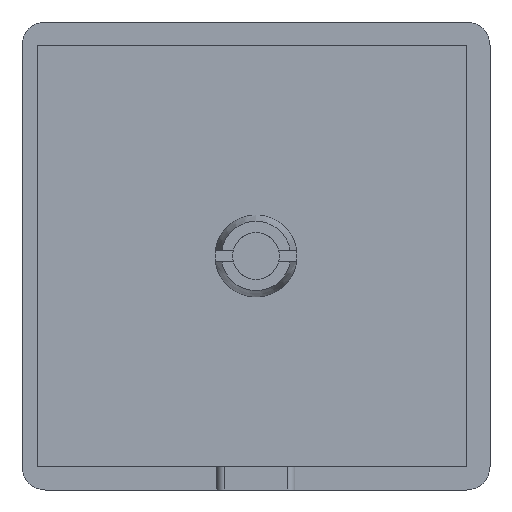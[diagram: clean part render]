
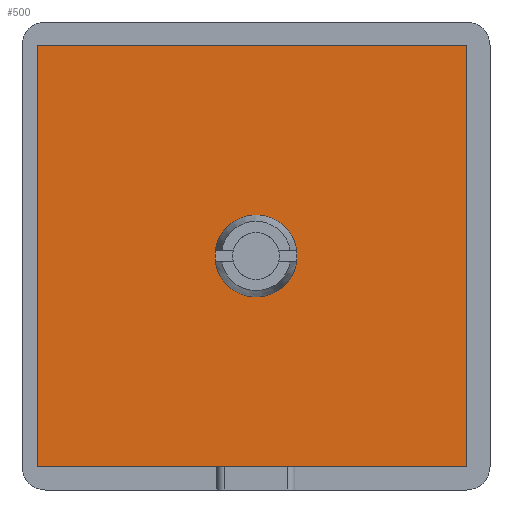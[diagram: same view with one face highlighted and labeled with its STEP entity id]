
A CAD part, front view. The second image highlights one B-rep face of the part: STEP entity #500.
In plain terms, the highlighted planar face has unit normal (0, -1, 0).
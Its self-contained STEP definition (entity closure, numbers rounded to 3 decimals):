
#17 = ORIENTED_EDGE ( 'NONE', *, *, #1248, .F. ) ;
#42 = CARTESIAN_POINT ( 'NONE',  ( 30., 1., -35.25 ) ) ;
#57 = EDGE_CURVE ( 'NONE', #792, #784, #294, .T. ) ;
#86 = CARTESIAN_POINT ( 'NONE',  ( 57., 1., -3. ) ) ;
#105 = FACE_OUTER_BOUND ( 'NONE', #650, .T. ) ;
#123 = EDGE_CURVE ( 'NONE', #1210, #792, #912, .T. ) ;
#174 = CARTESIAN_POINT ( 'NONE',  ( 57., 1., -57. ) ) ;
#209 = DIRECTION ( 'NONE',  ( 0., -1., 0. ) ) ;
#211 = ORIENTED_EDGE ( 'NONE', *, *, #123, .T. ) ;
#214 = VERTEX_POINT ( 'NONE', #1143 ) ;
#226 = CIRCLE ( 'NONE', #1229, 5.25 ) ;
#251 = ORIENTED_EDGE ( 'NONE', *, *, #57, .T. ) ;
#284 = CARTESIAN_POINT ( 'NONE',  ( 2., 1., -57. ) ) ;
#294 = LINE ( 'NONE', #86, #408 ) ;
#303 = DIRECTION ( 'NONE',  ( 0., 0., 1. ) ) ;
#321 = FACE_BOUND ( 'NONE', #779, .T. ) ;
#362 = VERTEX_POINT ( 'NONE', #42 ) ;
#408 = VECTOR ( 'NONE', #303, 1000. ) ;
#409 = VERTEX_POINT ( 'NONE', #726 ) ;
#421 = DIRECTION ( 'NONE',  ( 0., -1., 0. ) ) ;
#500 = ADVANCED_FACE ( 'NONE', ( #105, #321 ), #641, .T. ) ;
#539 = CIRCLE ( 'NONE', #1159, 5.25 ) ;
#545 = ORIENTED_EDGE ( 'NONE', *, *, #604, .F. ) ;
#575 = DIRECTION ( 'NONE',  ( 0., -1., 0. ) ) ;
#595 = VECTOR ( 'NONE', #853, 1000. ) ;
#604 = EDGE_CURVE ( 'NONE', #362, #409, #226, .T. ) ;
#641 = PLANE ( 'NONE',  #872 ) ;
#644 = LINE ( 'NONE', #1381, #595 ) ;
#650 = EDGE_LOOP ( 'NONE', ( #1113, #211, #251, #1097 ) ) ;
#658 = VECTOR ( 'NONE', #1346, 1000. ) ;
#674 = CARTESIAN_POINT ( 'NONE',  ( 2., 1., -57. ) ) ;
#726 = CARTESIAN_POINT ( 'NONE',  ( 30., 1., -24.75 ) ) ;
#741 = DIRECTION ( 'NONE',  ( 0., 0., -1. ) ) ;
#779 = EDGE_LOOP ( 'NONE', ( #17, #545 ) ) ;
#784 = VERTEX_POINT ( 'NONE', #1054 ) ;
#792 = VERTEX_POINT ( 'NONE', #174 ) ;
#796 = DIRECTION ( 'NONE',  ( 0., 0., -1. ) ) ;
#853 = DIRECTION ( 'NONE',  ( 0., 0., -1. ) ) ;
#855 = DIRECTION ( 'NONE',  ( 0., 0., -1. ) ) ;
#857 = EDGE_CURVE ( 'NONE', #784, #214, #1025, .T. ) ;
#862 = CARTESIAN_POINT ( 'NONE',  ( 2., 1., -57. ) ) ;
#867 = VECTOR ( 'NONE', #919, 1000. ) ;
#872 = AXIS2_PLACEMENT_3D ( 'NONE', #862, #209, #741 ) ;
#912 = LINE ( 'NONE', #674, #867 ) ;
#914 = CARTESIAN_POINT ( 'NONE',  ( 30., 1., -30. ) ) ;
#919 = DIRECTION ( 'NONE',  ( 1., 0., 0. ) ) ;
#984 = EDGE_CURVE ( 'NONE', #214, #1210, #644, .T. ) ;
#1025 = LINE ( 'NONE', #1341, #658 ) ;
#1054 = CARTESIAN_POINT ( 'NONE',  ( 57., 1., -3. ) ) ;
#1097 = ORIENTED_EDGE ( 'NONE', *, *, #857, .T. ) ;
#1113 = ORIENTED_EDGE ( 'NONE', *, *, #984, .T. ) ;
#1143 = CARTESIAN_POINT ( 'NONE',  ( 2., 1., -3. ) ) ;
#1159 = AXIS2_PLACEMENT_3D ( 'NONE', #914, #575, #796 ) ;
#1181 = CARTESIAN_POINT ( 'NONE',  ( 30., 1., -30. ) ) ;
#1210 = VERTEX_POINT ( 'NONE', #284 ) ;
#1229 = AXIS2_PLACEMENT_3D ( 'NONE', #1181, #421, #855 ) ;
#1248 = EDGE_CURVE ( 'NONE', #409, #362, #539, .T. ) ;
#1341 = CARTESIAN_POINT ( 'NONE',  ( 2., 1., -3. ) ) ;
#1346 = DIRECTION ( 'NONE',  ( -1., 0., 0. ) ) ;
#1381 = CARTESIAN_POINT ( 'NONE',  ( 2., 1., -3. ) ) ;
